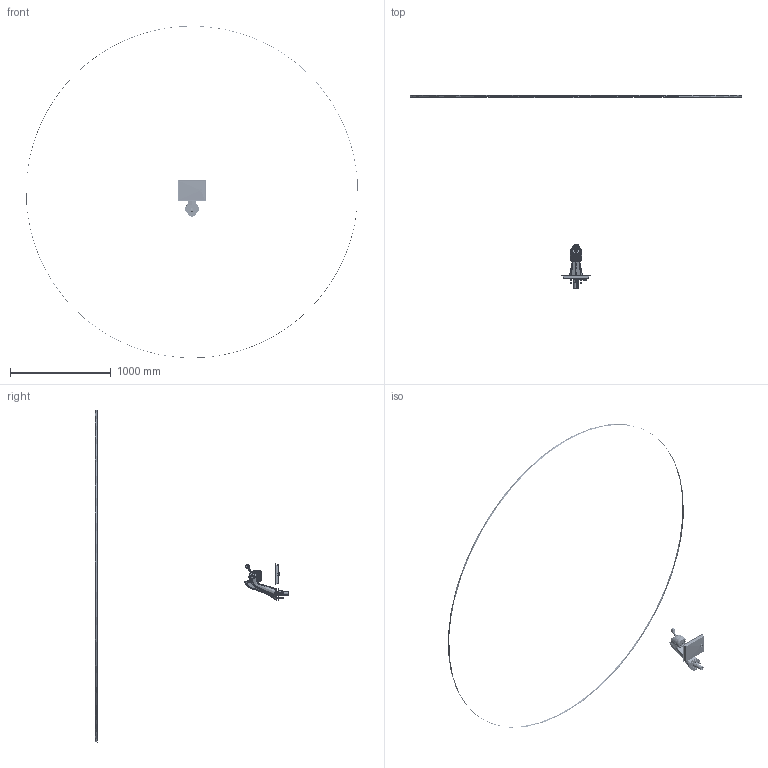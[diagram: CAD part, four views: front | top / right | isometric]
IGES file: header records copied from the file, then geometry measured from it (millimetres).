
Start section: SolidWorks IGES file using analytic representation for surfaces
Global section: file name: C:\Users\vincenzo\LA MARZOCCO SRL\ATC - Documenti\LM SUPPORT PACKAGE\FULL TECHNICAL DOCUMENTATION\3D MODELS DRAWINGS FOR CUSTOMER USE\MODBAR\MODBAR AV\LM0013534_TAP_MODBAR-AV.IGS; native system: SolidWorks 2021; preprocessor: SolidWorks 2021; author: vincenzo; date: 230302.160706; units: millimetre
Bounding box: 3291.66 x 1922.16 x 3296.71 mm (x, y, z)
Surface area: 899954.8 mm2 (no closed solid volume)
Topology: 0 solids, 0 shells, 3698 faces, 52932 edges, 52900 vertices
Faces by surface type: bspline 2050, revolution 1648
